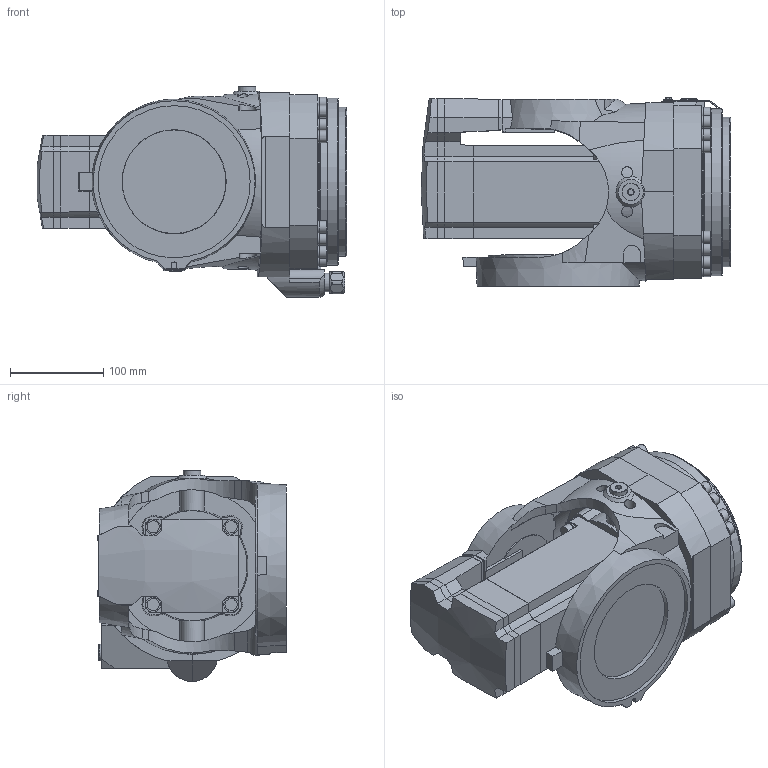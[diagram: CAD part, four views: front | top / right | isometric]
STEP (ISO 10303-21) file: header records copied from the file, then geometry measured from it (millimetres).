
FILE_DESCRIPTION (( 'STEP AP214' ), '1' );
FILE_NAME ('IRB6740-MH3_260kg-300_OC_02_LINK05_CAD.step', '2026-05-07T13:29:28', ( '' ), ( '' ), 'SwSTEP 2.0', 'SolidWorks 2024', '' );
FILE_SCHEMA (( 'AUTOMOTIVE_DESIGN' ));
Length unit declared in the file: millimetre
Products named in the file (1): IRB6740-MH3_260kg-300_OC_02_LINK05_CAD
Bounding box: 331.69 x 202.28 x 226 mm (x, y, z)
Volume: 6637297.4 mm3; surface area: 417778 mm2
Topology: 1 solids, 10 shells, 634 faces, 1610 edges, 1050 vertices
Faces by surface type: plane 380, cylinder 139, cone 69, torus 26, bspline 20
Full cylindrical faces by diameter (mm): 3.3 x2, 4 x2, 5 x4, 6.5 x2, 10 x2, 11.8 x4, 13 x20, 13.27 x16, 16 x4, 17.9 x1, 19 x2, 20 x1, 22 x1, 40 x1, 42 x1, 92 x1, 160 x1, 163 x1, 178 x1, 179 x2
Entity records: 28843 total; most frequent: CARTESIAN_POINT 7615, ORIENTED_EDGE 2926, DIRECTION 2740, EDGE_CURVE 1463, VERTEX_POINT 1010, AXIS2_PLACEMENT_3D 988, EDGE_LOOP 821, LINE 764
